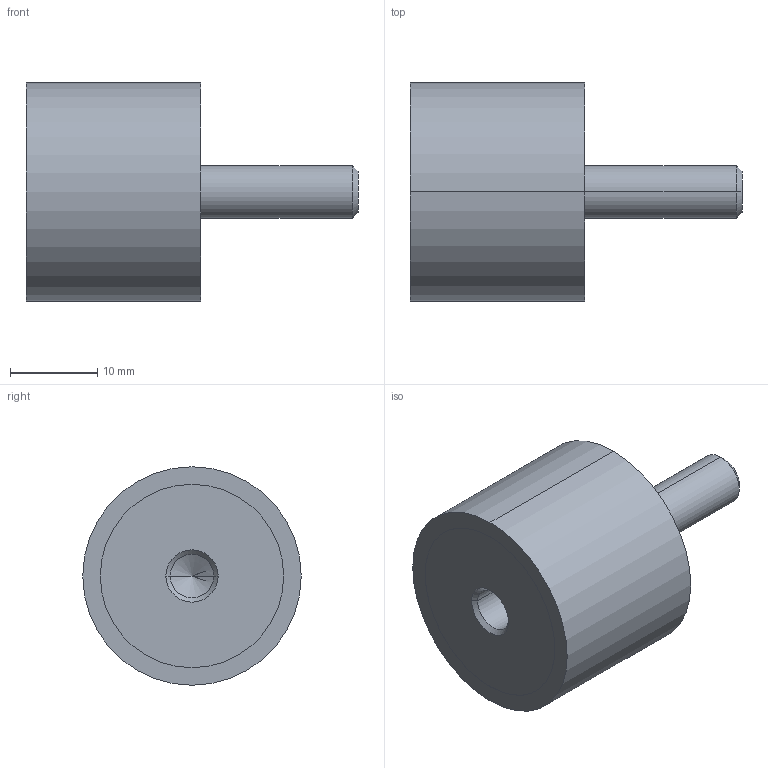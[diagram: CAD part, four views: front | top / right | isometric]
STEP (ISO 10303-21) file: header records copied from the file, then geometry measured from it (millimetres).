
FILE_DESCRIPTION (( 'STEP AP214' ), '1' );
FILE_NAME ('351-25-20-M6-ES-40.step', '2025-07-23T09:58:06', ( '' ), ( '' ), 'SwSTEP 2.0', 'SolidWorks 2022', '' );
FILE_SCHEMA (( 'AUTOMOTIVE_DESIGN' ));
Length unit declared in the file: millimetre
Products named in the file (1): 351-25-20-M6-ES-40
Bounding box: 38 x 25 x 25 mm (x, y, z)
Volume: 10167.8 mm3; surface area: 2994 mm2
Topology: 1 solids, 1 shells, 24 faces, 48 edges, 29 vertices
Faces by surface type: cylinder 12, cone 6, plane 6
Entity records: 740 total; most frequent: DIRECTION 124, CARTESIAN_POINT 100, ORIENTED_EDGE 92, AXIS2_PLACEMENT_3D 53, EDGE_CURVE 46, VERTEX_POINT 29, EDGE_LOOP 29, CIRCLE 28
